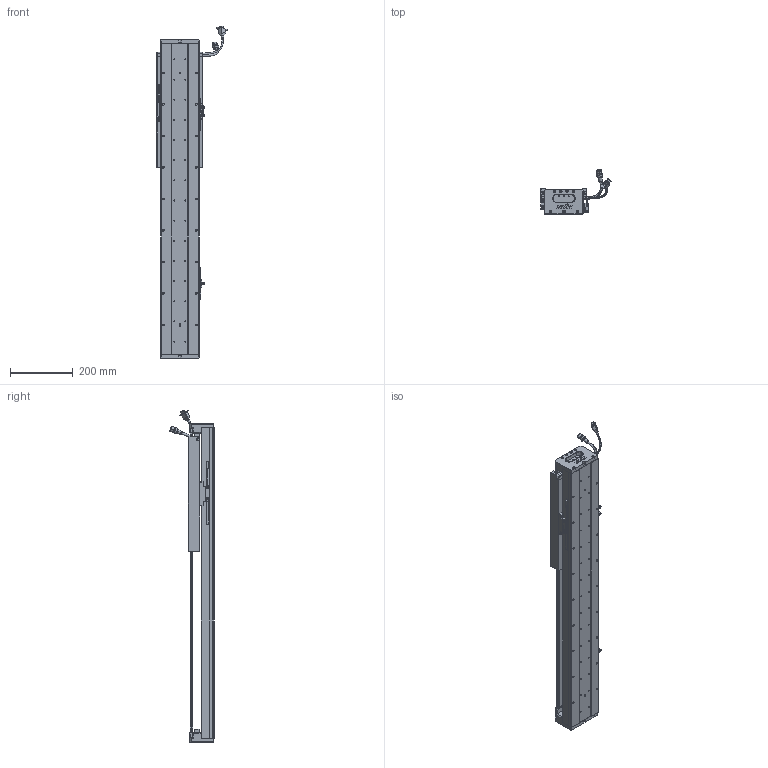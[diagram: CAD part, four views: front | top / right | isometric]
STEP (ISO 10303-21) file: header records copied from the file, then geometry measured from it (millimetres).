
FILE_DESCRIPTION (( 'STEP AP203' ), '1' );
FILE_NAME ('Z5-RY120D-1-L500-B-K.SLDASM_0550.step', '2021-05-17T06:21:25', ( '盈信电脑' ), ( '东莞市道滘镇水果街19号' ), 'SwSTEP 2.0', 'SolidWorks 2016', '' );
FILE_SCHEMA (( 'CONFIG_CONTROL_DESIGN' ));
Length unit declared in the file: millimetre
Products named in the file (37): HOLDER0; PSLH080_PSLF2; PBU_SHEET; 榋妏寠巭燃_暯_M2_2; SHIELDPLATE; SCREW-M1.7-1; 080黍杅芛假蚾釱21遴; COVER-Part-1; SCREW-M1.6-1; Z5-RY120-500-倰第菁釱_0550; SEAL; LABEL; Z-RY120D詩湍奻揤裔; SCREW-M1.6-3; HARNESS; SCREW-M1.7; LABEL-Part-1; Z5-RY120-L500詩湍100mm遵_0550; SCALE; SCALE-Part-1; Z-RY120D詩湍狟揤裔; 140雄赽晤鎢ん堤盄; Z5-RY120D-1-L500-B-K.SLDASM_0550; SEAL-Part-1; Z5-RY120铝滑块（21款）; HARNESS-Part-1; COVER; RY100FB-遵嫖萇覜茼え; 140蚥薯蝶輸; 覜茼ん672; SCREW-M1.6; Z-120詩湍傷裔啣; 120-Z-臏賑輸盄裔(21遴); 672嫖萇羲壽假蚾釱; SCREW-M1.6-2; SCALE-Part-2; HARNESS-Part-2
Assembly tree (43 placements, depth 4):
  Z5-RY120D-1-L500-B-K.SLDASM_0550
    Z5-RY120-500-倰第菁釱_0550
    覜茼ん672  x3
    672嫖萇羲壽假蚾釱  x2
    Z5-RY120铝滑块（21款）
    PSLH080_PSLF2
      SCALE
        SCALE-Part-1
        SCALE-Part-2
      HARNESS
        HARNESS-Part-1
        HARNESS-Part-2
      LABEL
        LABEL-Part-1
      COVER
        COVER-Part-1
      SEAL
        SEAL-Part-1
      榋妏寠巭燃_暯_M2_2
      SHIELDPLATE
      SCREW-M1.7
      SCREW-M1.7-1
      PBU_SHEET
      SCREW-M1.6
      SCREW-M1.6-1
      SCREW-M1.6-2
      SCREW-M1.6-3
      HOLDER0
    080黍杅芛假蚾釱21遴
    120-Z-臏賑輸盄裔(21遴)
    140雄赽晤鎢ん堤盄
    140蚥薯蝶輸  x2
    RY100FB-遵嫖萇覜茼え
    Z-120詩湍傷裔啣  x2
    Z-RY120D詩湍奻揤裔  x2
    Z-RY120D詩湍狟揤裔  x2
    Z5-RY120-L500詩湍100mm遵_0550
Bounding box: 222.88 x 140.94 x 1054 mm (x, y, z)
Volume: 3359771.7 mm3; surface area: 1057490.8 mm2
Topology: 38 solids, 38 shells, 2821 faces, 7577 edges, 4786 vertices
Faces by surface type: cylinder 1299, plane 1122, cone 278, torus 69, bspline 53
Entity records: 84056 total; most frequent: CARTESIAN_POINT 21913, ORIENTED_EDGE 12122, DIRECTION 12081, EDGE_CURVE 6061, AXIS2_PLACEMENT_3D 4444, VERTEX_POINT 3906, LINE 3193, VECTOR 3193
